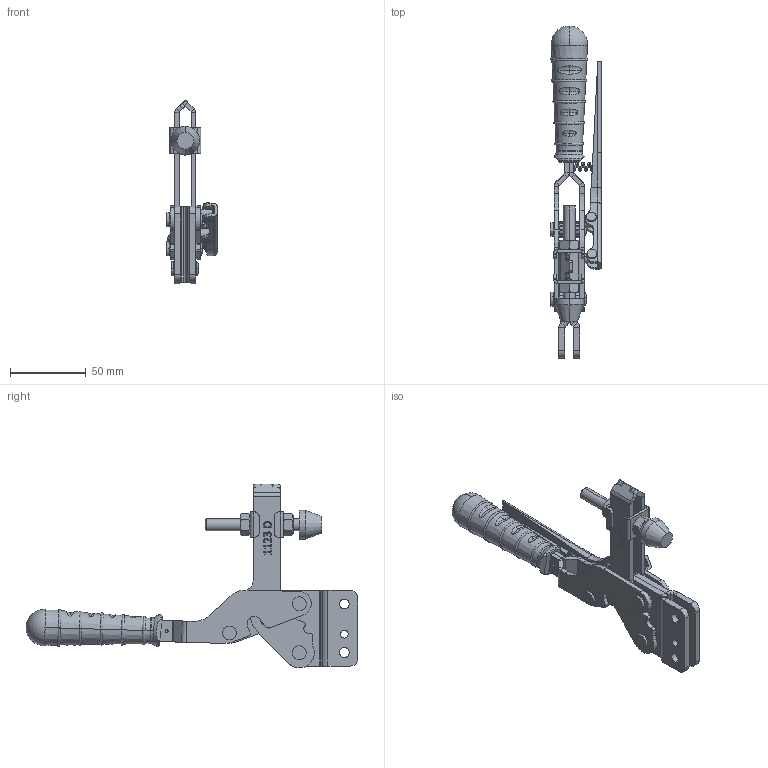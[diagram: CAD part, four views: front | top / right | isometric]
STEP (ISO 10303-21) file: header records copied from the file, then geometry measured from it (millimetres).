
FILE_DESCRIPTION (( 'STEP AP214' ), '1' );
FILE_NAME ('1123D.STEP', '2020-07-10T13:16:09', ( '' ), ( '' ), 'SwSTEP 2.0', 'SolidWorks 2019', '' );
FILE_SCHEMA (( 'AUTOMOTIVE_DESIGN' ));
Length unit declared in the file: millimetre
Products named in the file (25): Burc_10x6x8; Part2^1407_UD_K_Montaj; Pim_6x18; kilit pimi; 1407_UD_Gövde; 1407_Cap6x14 Týrtýllý Pim; 1407_Baský KoluSol; Pim_4x12_5; Aynalama1407_Hareket Kolu; Pim_6x24_5; M8 Baský; 1407_Hareket Kolu; M8 Somun; 1407_Mafsal; Aynalama1407_UD_Gövde; Aynalamakilit koluSLDPRT; 1407_Baský Kolu; kare destek_2019yeni; M8 Aský; C90 Tutamak; 1123D; M8 Baský Grubu; Burc_10x6x14; 1407_Kilit_Sol_Mek; Kilit Yayý
Assembly tree (30 placements, depth 3):
  Part2^1407_UD_K_Montaj
  1123D
    1407_Baský Kolu
    1407_Hareket Kolu
    1407_Mafsal  x2
    Aynalama1407_Hareket Kolu
    C90 Tutamak
    M8 Baský Grubu
      M8 Somun  x2
      M8 Aský  x2
      M8 Baský
    Pim_6x24_5  x2
    Burc_10x6x14  x2
    Burc_10x6x8
    Pim_6x18
    1407_Cap6x14 Týrtýllý Pim  x2
    Kilit Yayý
    1407_Baský KoluSol
    1407_Kilit_Sol_Mek
      kare destek_2019yeni
      kilit pimi
      Pim_4x12_5  x2
      Aynalamakilit koluSLDPRT
    1407_UD_Gövde
    Aynalama1407_UD_Gövde
Bounding box: 33.34 x 219.35 x 121.51 mm (x, y, z)
Volume: 98732.6 mm3; surface area: 70363.1 mm2
Topology: 28 solids, 28 shells, 1651 faces, 4296 edges, 2765 vertices
Faces by surface type: plane 969, cylinder 369, bspline 169, cone 73, torus 69, sphere 2
Entity records: 49922 total; most frequent: CARTESIAN_POINT 16281, ORIENTED_EDGE 6594, DIRECTION 5914, EDGE_CURVE 3297, VERTEX_POINT 2122, LINE 1992, VECTOR 1992, AXIS2_PLACEMENT_3D 1961
